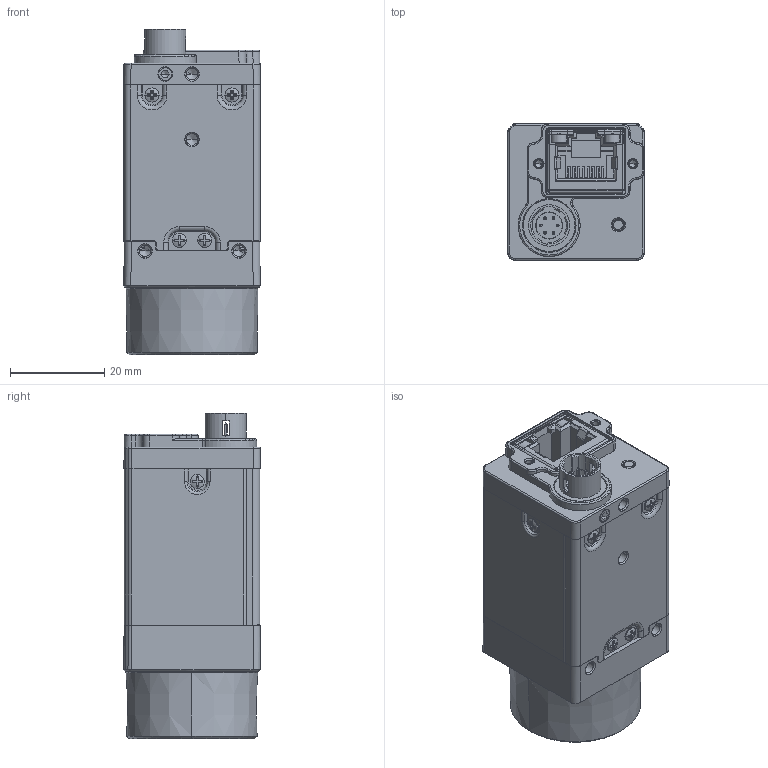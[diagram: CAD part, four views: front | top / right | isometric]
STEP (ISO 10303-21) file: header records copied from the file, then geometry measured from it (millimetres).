
FILE_DESCRIPTION((''),'2;1');
FILE_NAME('MV-CU050-90GMC_ASM','2022-08-10T14:35:32',('zhangfeixiang8'),(''),'CREO PARAMETRIC BY PTC INC, 2020044','CREO PARAMETRIC BY PTC INC, 2020044','');
FILE_SCHEMA(('CONFIG_CONTROL_DESIGN','SHAPE_APPEARANCE_LAYERS_GROUPS'));
Products named in the file (1): MV-CU050-90GMC_ASM
Bounding box: 29 x 29.05 x 69.15 mm (x, y, z)
Volume: 50570.8 mm3; surface area: 30479 mm2
Topology: 24 solids, 66 shells, 3621 faces, 10105 edges, 6553 vertices
Faces by surface type: plane 1674, cylinder 896, cone 431, bspline 348, torus 186, extrusion 56, sphere 30
Entity records: 174567 total; most frequent: CARTESIAN_POINT 58075, ORIENTED_EDGE 19792, DIRECTION 17248, EDGE_CURVE 10047, VERTEX_POINT 6553, AXIS2_PLACEMENT_3D 5905, VECTOR 5438, LINE 5382
